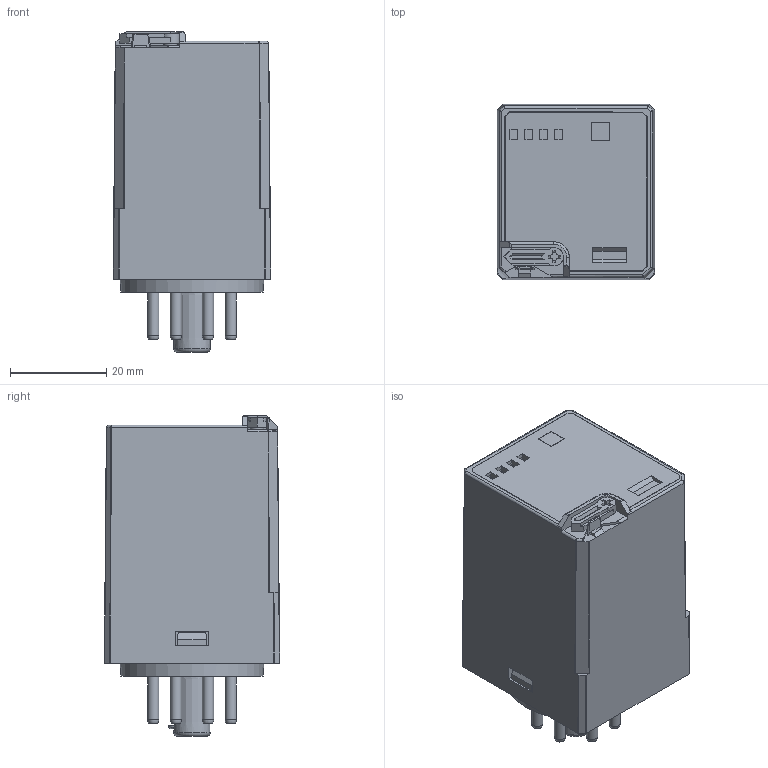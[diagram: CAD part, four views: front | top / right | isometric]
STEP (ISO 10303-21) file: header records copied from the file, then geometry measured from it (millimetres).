
FILE_DESCRIPTION(/* description */ ('Unknown'),/* implementation_level */ '2;1');
FILE_NAME(/* name */ '6012',/* time_stamp */ '2019-09-20T10:43:52+02:00',/* author */ ('Unknown'),/* organization */ ('Unknown'),/* preprocessor_version */ 'ST-DEVELOPER v16.7',/* originating_system */ 'DEX',/* authorisation */ $);
FILE_SCHEMA (('AUTOMOTIVE_DESIGN {1 0 10303 214 3 1 1}'));
Length unit declared in the file: millimetre
Products named in the file (1): 6012
Bounding box: 32.8 x 36.5 x 66.75 mm (x, y, z)
Surface area: 13819.7 mm2 (no closed solid volume)
Topology: 0 solids, 26 shells, 440 faces, 1240 edges, 828 vertices
Faces by surface type: plane 251, torus 68, cylinder 63, cone 29, bspline 25, sphere 4
Full cylindrical faces by diameter (mm): 1.5 x1, 2.35 x8, 2.8 x1
Entity records: 14482 total; most frequent: CARTESIAN_POINT 3425, DIRECTION 2212, ORIENTED_EDGE 1974, EDGE_CURVE 1111, VERTEX_POINT 809, AXIS2_PLACEMENT_3D 742, LINE 728, VECTOR 728
